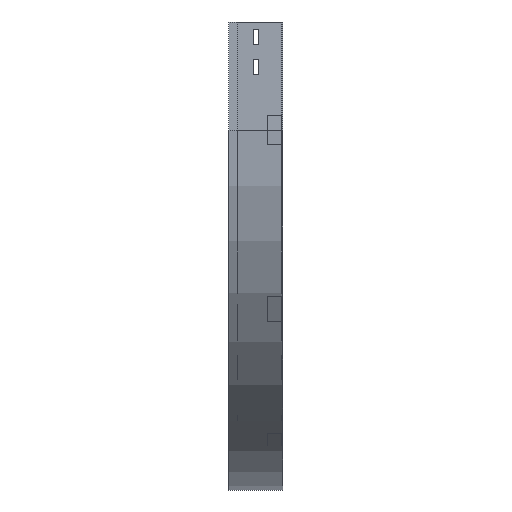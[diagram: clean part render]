
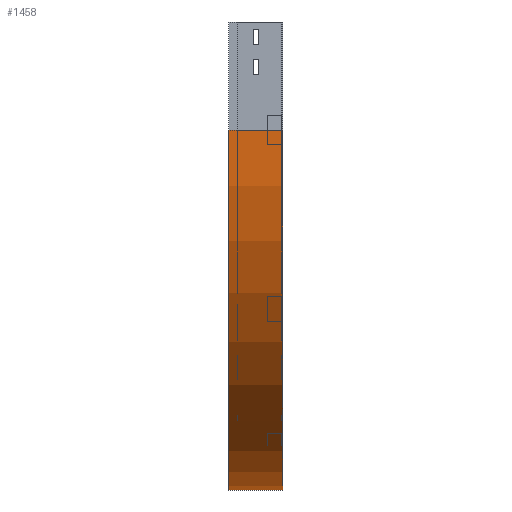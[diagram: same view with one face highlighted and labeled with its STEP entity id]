
A CAD part, left-side view. The second image highlights one B-rep face of the part: STEP entity #1458.
In plain terms, the highlighted cylindrical face has radius 500 mm (diameter 1000 mm), a partial arc.
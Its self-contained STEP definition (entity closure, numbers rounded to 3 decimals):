
#20 = VERTEX_POINT ( 'NONE', #3512 ) ;
#128 = DIRECTION ( 'NONE',  ( 0., -1., 0. ) ) ;
#144 = FACE_OUTER_BOUND ( 'NONE', #3625, .T. ) ;
#164 = CYLINDRICAL_SURFACE ( 'NONE', #1794, 500. ) ;
#245 = CARTESIAN_POINT ( 'NONE',  ( 0., 75., -150. ) ) ;
#272 = EDGE_CURVE ( 'NONE', #3078, #1490, #737, .T. ) ;
#330 = LINE ( 'NONE', #3595, #2686 ) ;
#435 = EDGE_CURVE ( 'NONE', #3528, #20, #1476, .T. ) ;
#492 = DIRECTION ( 'NONE',  ( -1., 0., 0. ) ) ;
#677 = AXIS2_PLACEMENT_3D ( 'NONE', #3143, #3759, #492 ) ;
#692 = CARTESIAN_POINT ( 'NONE',  ( 0., 0., -150. ) ) ;
#697 = VECTOR ( 'NONE', #1878, 1000. ) ;
#737 = CIRCLE ( 'NONE', #677, 500. ) ;
#968 = CARTESIAN_POINT ( 'NONE',  ( 500., 0., -650. ) ) ;
#1095 = CARTESIAN_POINT ( 'NONE',  ( 500., 0., -150. ) ) ;
#1241 = LINE ( 'NONE', #968, #697 ) ;
#1417 = AXIS2_PLACEMENT_3D ( 'NONE', #1095, #3525, #3215 ) ;
#1454 = ORIENTED_EDGE ( 'NONE', *, *, #435, .F. ) ;
#1458 = ADVANCED_FACE ( 'NONE', ( #144 ), #164, .T. ) ;
#1476 = CIRCLE ( 'NONE', #1417, 500. ) ;
#1490 = VERTEX_POINT ( 'NONE', #2509 ) ;
#1719 = ORIENTED_EDGE ( 'NONE', *, *, #272, .T. ) ;
#1794 = AXIS2_PLACEMENT_3D ( 'NONE', #1940, #128, #2883 ) ;
#1878 = DIRECTION ( 'NONE',  ( 0., -1., 0. ) ) ;
#1940 = CARTESIAN_POINT ( 'NONE',  ( 500., 0., -150. ) ) ;
#2101 = DIRECTION ( 'NONE',  ( 0., -1., 0. ) ) ;
#2459 = EDGE_CURVE ( 'NONE', #3078, #3528, #330, .T. ) ;
#2474 = ORIENTED_EDGE ( 'NONE', *, *, #2459, .F. ) ;
#2509 = CARTESIAN_POINT ( 'NONE',  ( 500., 75., -650. ) ) ;
#2686 = VECTOR ( 'NONE', #2101, 1000. ) ;
#2883 = DIRECTION ( 'NONE',  ( 0., 0., -1. ) ) ;
#3078 = VERTEX_POINT ( 'NONE', #245 ) ;
#3143 = CARTESIAN_POINT ( 'NONE',  ( 500., 75., -150. ) ) ;
#3165 = ORIENTED_EDGE ( 'NONE', *, *, #3262, .T. ) ;
#3215 = DIRECTION ( 'NONE',  ( -1., 0., 0. ) ) ;
#3262 = EDGE_CURVE ( 'NONE', #1490, #20, #1241, .T. ) ;
#3512 = CARTESIAN_POINT ( 'NONE',  ( 500., 0., -650. ) ) ;
#3525 = DIRECTION ( 'NONE',  ( 0., -1., 0. ) ) ;
#3528 = VERTEX_POINT ( 'NONE', #692 ) ;
#3595 = CARTESIAN_POINT ( 'NONE',  ( 0., 0., -150. ) ) ;
#3625 = EDGE_LOOP ( 'NONE', ( #1454, #2474, #1719, #3165 ) ) ;
#3759 = DIRECTION ( 'NONE',  ( 0., -1., 0. ) ) ;
